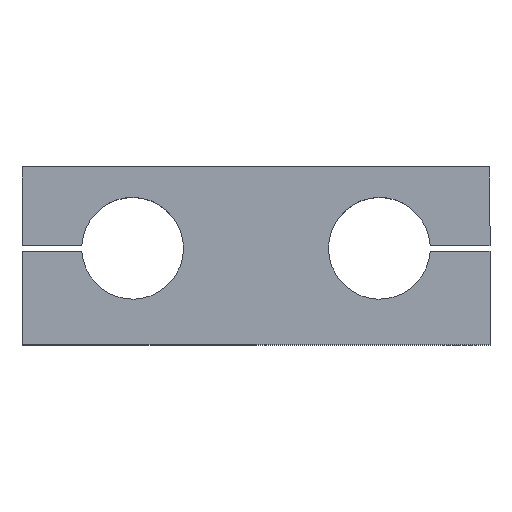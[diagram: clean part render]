
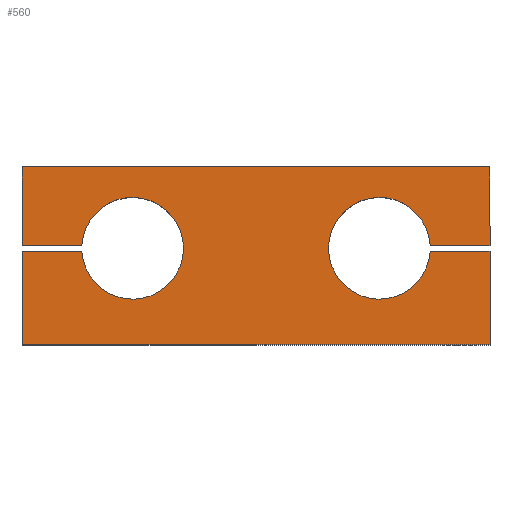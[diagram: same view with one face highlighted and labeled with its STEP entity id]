
A CAD part, top view. The second image highlights one B-rep face of the part: STEP entity #560.
In plain terms, the highlighted planar face has unit normal (0, 0, 1).
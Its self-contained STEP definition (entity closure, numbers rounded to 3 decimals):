
#28 = DIRECTION ( 'NONE',  ( 0., 1., 0. ) ) ;
#40 = CARTESIAN_POINT ( 'NONE',  ( 92., 4.075, 15. ) ) ;
#51 = EDGE_CURVE ( 'NONE', #999, #969, #220, .T. ) ;
#65 = DIRECTION ( 'NONE',  ( 1., 0., 0. ) ) ;
#74 = VECTOR ( 'NONE', #575, 1000. ) ;
#94 = DIRECTION ( 'NONE',  ( 0., -1., 0. ) ) ;
#96 = VERTEX_POINT ( 'NONE', #646 ) ;
#104 = CARTESIAN_POINT ( 'NONE',  ( 0., 0., 15. ) ) ;
#106 = LINE ( 'NONE', #634, #576 ) ;
#116 = CARTESIAN_POINT ( 'NONE',  ( 48.5, 3., 15. ) ) ;
#120 = CARTESIAN_POINT ( 'NONE',  ( -48.5, 3., 15. ) ) ;
#123 = CARTESIAN_POINT ( 'NONE',  ( 92., 35., 15. ) ) ;
#143 = DIRECTION ( 'NONE',  ( 0., -1., 0. ) ) ;
#158 = ORIENTED_EDGE ( 'NONE', *, *, #509, .F. ) ;
#161 = VERTEX_POINT ( 'NONE', #662 ) ;
#172 = CARTESIAN_POINT ( 'NONE',  ( -92., -35., 15. ) ) ;
#174 = CARTESIAN_POINT ( 'NONE',  ( -48.5, 3., 15. ) ) ;
#175 = LINE ( 'NONE', #1015, #302 ) ;
#186 = PLANE ( 'NONE',  #591 ) ;
#212 = CARTESIAN_POINT ( 'NONE',  ( 47.5, 4.075, 15. ) ) ;
#219 = ORIENTED_EDGE ( 'NONE', *, *, #51, .F. ) ;
#220 = LINE ( 'NONE', #212, #841 ) ;
#234 = CARTESIAN_POINT ( 'NONE',  ( -92., 35., 15. ) ) ;
#249 = CARTESIAN_POINT ( 'NONE',  ( -28.5, 3., 15. ) ) ;
#257 = DIRECTION ( 'NONE',  ( -1., 0., 0. ) ) ;
#267 = AXIS2_PLACEMENT_3D ( 'NONE', #120, #813, #65 ) ;
#269 = EDGE_CURVE ( 'NONE', #457, #376, #425, .T. ) ;
#302 = VECTOR ( 'NONE', #257, 1000. ) ;
#322 = VECTOR ( 'NONE', #1070, 1000. ) ;
#346 = CARTESIAN_POINT ( 'NONE',  ( -92., 4.075, 15. ) ) ;
#376 = VERTEX_POINT ( 'NONE', #249 ) ;
#405 = VERTEX_POINT ( 'NONE', #123 ) ;
#411 = VERTEX_POINT ( 'NONE', #444 ) ;
#425 = CIRCLE ( 'NONE', #621, 20. ) ;
#427 = EDGE_CURVE ( 'NONE', #161, #698, #106, .T. ) ;
#435 = CIRCLE ( 'NONE', #496, 20. ) ;
#443 = DIRECTION ( 'NONE',  ( 1., 0., 0. ) ) ;
#444 = CARTESIAN_POINT ( 'NONE',  ( -92., 1.925, 15. ) ) ;
#446 = CARTESIAN_POINT ( 'NONE',  ( -92., 35., 15. ) ) ;
#452 = ORIENTED_EDGE ( 'NONE', *, *, #701, .F. ) ;
#457 = VERTEX_POINT ( 'NONE', #1052 ) ;
#461 = CARTESIAN_POINT ( 'NONE',  ( 92., 35., 15. ) ) ;
#493 = LINE ( 'NONE', #172, #779 ) ;
#496 = AXIS2_PLACEMENT_3D ( 'NONE', #116, #533, #788 ) ;
#509 = EDGE_CURVE ( 'NONE', #969, #874, #435, .T. ) ;
#523 = DIRECTION ( 'NONE',  ( 0., 0., 1. ) ) ;
#533 = DIRECTION ( 'NONE',  ( 0., 0., 1. ) ) ;
#538 = FACE_OUTER_BOUND ( 'NONE', #967, .T. ) ;
#549 = VECTOR ( 'NONE', #854, 1000. ) ;
#554 = DIRECTION ( 'NONE',  ( -1., 0., 0. ) ) ;
#560 = ADVANCED_FACE ( 'NONE', ( #538 ), #186, .T. ) ;
#564 = LINE ( 'NONE', #461, #690 ) ;
#575 = DIRECTION ( 'NONE',  ( -1., 0., 0. ) ) ;
#576 = VECTOR ( 'NONE', #28, 1000. ) ;
#591 = AXIS2_PLACEMENT_3D ( 'NONE', #104, #523, #443 ) ;
#601 = LINE ( 'NONE', #684, #619 ) ;
#608 = CIRCLE ( 'NONE', #267, 20. ) ;
#611 = EDGE_CURVE ( 'NONE', #411, #96, #653, .T. ) ;
#619 = VECTOR ( 'NONE', #94, 1000. ) ;
#621 = AXIS2_PLACEMENT_3D ( 'NONE', #174, #1014, #1113 ) ;
#634 = CARTESIAN_POINT ( 'NONE',  ( 92., 35., 15. ) ) ;
#635 = ORIENTED_EDGE ( 'NONE', *, *, #847, .F. ) ;
#646 = CARTESIAN_POINT ( 'NONE',  ( -92., -35., 15. ) ) ;
#653 = LINE ( 'NONE', #997, #896 ) ;
#662 = CARTESIAN_POINT ( 'NONE',  ( 92., -35., 15. ) ) ;
#684 = CARTESIAN_POINT ( 'NONE',  ( -92., 35., 15. ) ) ;
#690 = VECTOR ( 'NONE', #1108, 1000. ) ;
#698 = VERTEX_POINT ( 'NONE', #902 ) ;
#701 = EDGE_CURVE ( 'NONE', #376, #989, #608, .T. ) ;
#721 = EDGE_CURVE ( 'NONE', #405, #1034, #728, .T. ) ;
#728 = LINE ( 'NONE', #234, #74 ) ;
#766 = EDGE_CURVE ( 'NONE', #96, #161, #493, .T. ) ;
#779 = VECTOR ( 'NONE', #1112, 1000. ) ;
#788 = DIRECTION ( 'NONE',  ( 1., 0., 0. ) ) ;
#813 = DIRECTION ( 'NONE',  ( 0., 0., 1. ) ) ;
#818 = ORIENTED_EDGE ( 'NONE', *, *, #269, .F. ) ;
#833 = EDGE_CURVE ( 'NONE', #989, #920, #175, .T. ) ;
#841 = VECTOR ( 'NONE', #554, 1000. ) ;
#843 = CARTESIAN_POINT ( 'NONE',  ( -92., 1.925, 15. ) ) ;
#845 = ORIENTED_EDGE ( 'NONE', *, *, #1023, .F. ) ;
#847 = EDGE_CURVE ( 'NONE', #411, #457, #852, .T. ) ;
#852 = LINE ( 'NONE', #843, #549 ) ;
#854 = DIRECTION ( 'NONE',  ( 1., 0., 0. ) ) ;
#869 = ORIENTED_EDGE ( 'NONE', *, *, #766, .T. ) ;
#874 = VERTEX_POINT ( 'NONE', #1012 ) ;
#875 = CARTESIAN_POINT ( 'NONE',  ( -68.471, 4.075, 15. ) ) ;
#880 = CARTESIAN_POINT ( 'NONE',  ( 47.5, 1.925, 15. ) ) ;
#896 = VECTOR ( 'NONE', #143, 1000. ) ;
#902 = CARTESIAN_POINT ( 'NONE',  ( 92., 1.925, 15. ) ) ;
#920 = VERTEX_POINT ( 'NONE', #346 ) ;
#923 = ORIENTED_EDGE ( 'NONE', *, *, #1109, .T. ) ;
#938 = EDGE_CURVE ( 'NONE', #1034, #920, #601, .T. ) ;
#956 = ORIENTED_EDGE ( 'NONE', *, *, #833, .F. ) ;
#967 = EDGE_LOOP ( 'NONE', ( #956, #452, #818, #635, #1104, #869, #1005, #845, #158, #219, #923, #984, #1009 ) ) ;
#969 = VERTEX_POINT ( 'NONE', #1035 ) ;
#984 = ORIENTED_EDGE ( 'NONE', *, *, #721, .T. ) ;
#989 = VERTEX_POINT ( 'NONE', #875 ) ;
#997 = CARTESIAN_POINT ( 'NONE',  ( -92., 35., 15. ) ) ;
#999 = VERTEX_POINT ( 'NONE', #40 ) ;
#1005 = ORIENTED_EDGE ( 'NONE', *, *, #427, .T. ) ;
#1009 = ORIENTED_EDGE ( 'NONE', *, *, #938, .T. ) ;
#1012 = CARTESIAN_POINT ( 'NONE',  ( 68.471, 1.925, 15. ) ) ;
#1014 = DIRECTION ( 'NONE',  ( 0., 0., 1. ) ) ;
#1015 = CARTESIAN_POINT ( 'NONE',  ( -92., 4.075, 15. ) ) ;
#1023 = EDGE_CURVE ( 'NONE', #874, #698, #1056, .T. ) ;
#1034 = VERTEX_POINT ( 'NONE', #446 ) ;
#1035 = CARTESIAN_POINT ( 'NONE',  ( 68.471, 4.075, 15. ) ) ;
#1052 = CARTESIAN_POINT ( 'NONE',  ( -68.471, 1.925, 15. ) ) ;
#1056 = LINE ( 'NONE', #880, #322 ) ;
#1070 = DIRECTION ( 'NONE',  ( 1., 0., 0. ) ) ;
#1104 = ORIENTED_EDGE ( 'NONE', *, *, #611, .T. ) ;
#1108 = DIRECTION ( 'NONE',  ( 0., 1., 0. ) ) ;
#1109 = EDGE_CURVE ( 'NONE', #999, #405, #564, .T. ) ;
#1112 = DIRECTION ( 'NONE',  ( 1., 0., 0. ) ) ;
#1113 = DIRECTION ( 'NONE',  ( 1., 0., 0. ) ) ;
